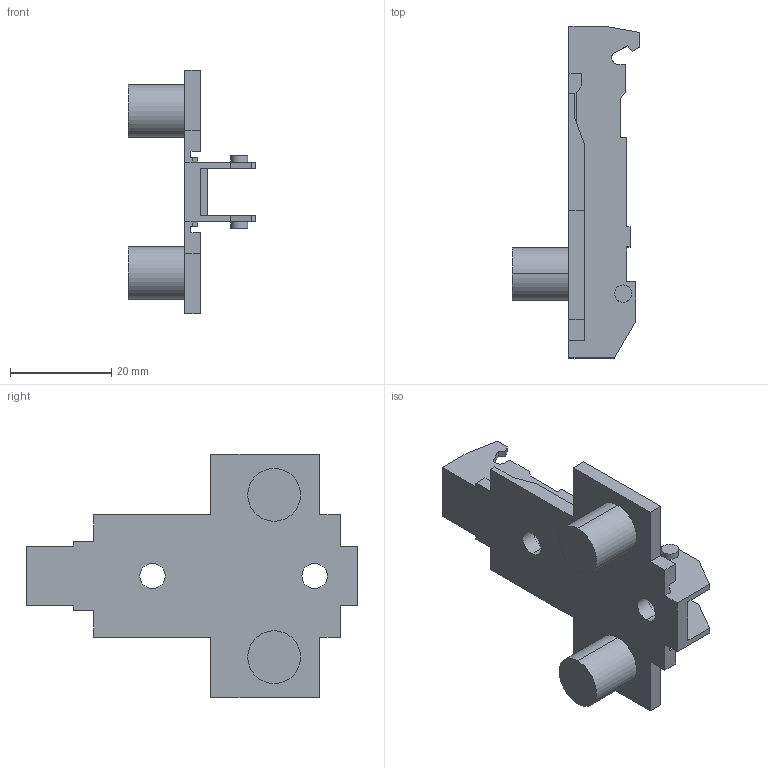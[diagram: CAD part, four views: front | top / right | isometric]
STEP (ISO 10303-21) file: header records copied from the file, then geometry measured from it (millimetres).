
FILE_DESCRIPTION (( 'STEP AP214' ), '1' );
FILE_NAME ('1D_Kreuzmontageplatte 28_32_10mm_Dübel_3,5.step', '2010-11-18T10:19:05', ( 'grass' ), ( '' ), 'SwSTEP 2.0', 'SolidWorks 2010', '' );
FILE_SCHEMA (( 'AUTOMOTIVE_DESIGN' ));
Length unit declared in the file: millimetre
Products named in the file (1): 1D_Kreuzmontageplatte 28_32_10mm_Dübel_3,5
Bounding box: 25.2 x 65.5 x 48 mm (x, y, z)
Volume: 8459.2 mm3; surface area: 7838.1 mm2
Topology: 1 solids, 1 shells, 112 faces, 308 edges, 204 vertices
Faces by surface type: plane 86, cylinder 22, cone 4
Entity records: 3570 total; most frequent: CARTESIAN_POINT 625, ORIENTED_EDGE 616, DIRECTION 582, EDGE_CURVE 308, LINE 260, VECTOR 260, VERTEX_POINT 204, AXIS2_PLACEMENT_3D 161
